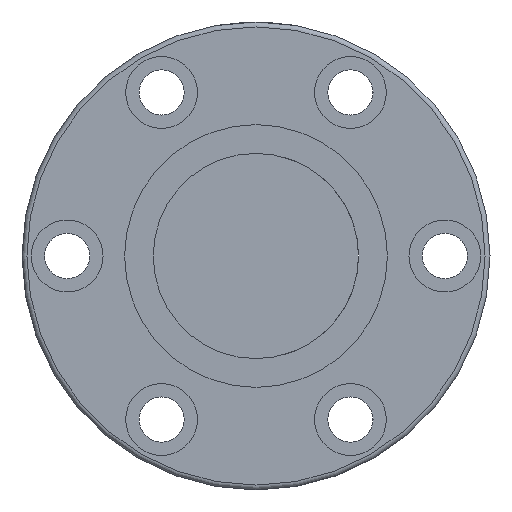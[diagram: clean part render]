
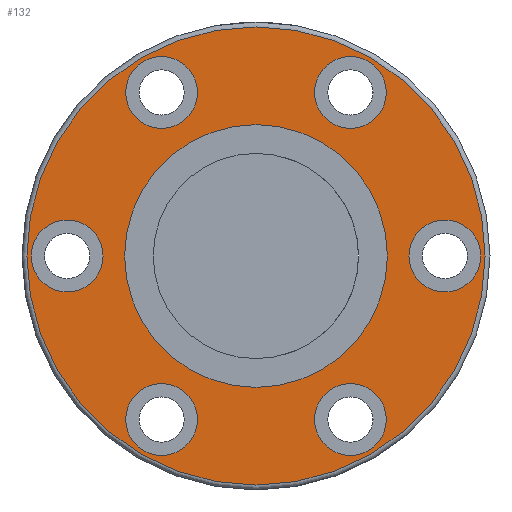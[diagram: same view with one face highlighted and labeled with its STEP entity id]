
A CAD part, front view. The second image highlights one B-rep face of the part: STEP entity #132.
In plain terms, the highlighted planar face has unit normal (0, -1, 0).
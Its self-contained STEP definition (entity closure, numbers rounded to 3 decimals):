
#112=PLANE('',#649);
#132=ADVANCED_FACE('',(#203,#204,#205,#206,#207,#208,#209,#210),#112,.F.);
#203=FACE_BOUND('',#298,.T.);
#204=FACE_BOUND('',#299,.T.);
#205=FACE_BOUND('',#300,.T.);
#206=FACE_BOUND('',#301,.T.);
#207=FACE_BOUND('',#302,.T.);
#208=FACE_BOUND('',#303,.T.);
#209=FACE_BOUND('',#304,.T.);
#210=FACE_BOUND('',#305,.T.);
#298=EDGE_LOOP('',(#396));
#299=EDGE_LOOP('',(#397));
#300=EDGE_LOOP('',(#398));
#301=EDGE_LOOP('',(#399));
#302=EDGE_LOOP('',(#400));
#303=EDGE_LOOP('',(#401));
#304=EDGE_LOOP('',(#402));
#305=EDGE_LOOP('',(#403));
#396=ORIENTED_EDGE('',*,*,#539,.T.);
#397=ORIENTED_EDGE('',*,*,#540,.T.);
#398=ORIENTED_EDGE('',*,*,#541,.T.);
#399=ORIENTED_EDGE('',*,*,#542,.T.);
#400=ORIENTED_EDGE('',*,*,#543,.T.);
#401=ORIENTED_EDGE('',*,*,#544,.T.);
#402=ORIENTED_EDGE('',*,*,#545,.T.);
#403=ORIENTED_EDGE('',*,*,#546,.F.);
#490=VERTEX_POINT('',#925);
#491=VERTEX_POINT('',#927);
#492=VERTEX_POINT('',#929);
#493=VERTEX_POINT('',#931);
#494=VERTEX_POINT('',#933);
#495=VERTEX_POINT('',#935);
#496=VERTEX_POINT('',#937);
#497=VERTEX_POINT('',#939);
#539=EDGE_CURVE('',#490,#490,#588,.T.);
#540=EDGE_CURVE('',#491,#491,#589,.T.);
#541=EDGE_CURVE('',#492,#492,#590,.T.);
#542=EDGE_CURVE('',#493,#493,#591,.T.);
#543=EDGE_CURVE('',#494,#494,#592,.T.);
#544=EDGE_CURVE('',#495,#495,#593,.T.);
#545=EDGE_CURVE('',#496,#496,#594,.T.);
#546=EDGE_CURVE('',#497,#497,#595,.T.);
#588=CIRCLE('',#641,8.75);
#589=CIRCLE('',#642,8.75);
#590=CIRCLE('',#643,8.75);
#591=CIRCLE('',#644,8.75);
#592=CIRCLE('',#645,8.75);
#593=CIRCLE('',#646,8.75);
#594=CIRCLE('',#647,55.8);
#595=CIRCLE('',#648,32.);
#641=AXIS2_PLACEMENT_3D('',#924,#743,#744);
#642=AXIS2_PLACEMENT_3D('',#926,#745,#746);
#643=AXIS2_PLACEMENT_3D('',#928,#747,#748);
#644=AXIS2_PLACEMENT_3D('',#930,#749,#750);
#645=AXIS2_PLACEMENT_3D('',#932,#751,#752);
#646=AXIS2_PLACEMENT_3D('',#934,#753,#754);
#647=AXIS2_PLACEMENT_3D('',#936,#755,#756);
#648=AXIS2_PLACEMENT_3D('',#938,#757,#758);
#649=AXIS2_PLACEMENT_3D('',#940,#759,#760);
#743=DIRECTION('',(0.,1.,0.));
#744=DIRECTION('',(0.,0.,1.));
#745=DIRECTION('',(0.,1.,0.));
#746=DIRECTION('',(0.,0.,1.));
#747=DIRECTION('',(0.,1.,0.));
#748=DIRECTION('',(0.,0.,1.));
#749=DIRECTION('',(0.,1.,0.));
#750=DIRECTION('',(0.,0.,1.));
#751=DIRECTION('',(0.,1.,0.));
#752=DIRECTION('',(0.,0.,1.));
#753=DIRECTION('',(0.,1.,0.));
#754=DIRECTION('',(0.,0.,1.));
#755=DIRECTION('',(0.,-1.,0.));
#756=DIRECTION('',(0.,0.,1.));
#757=DIRECTION('',(0.,-1.,0.));
#758=DIRECTION('',(1.,0.,0.));
#759=DIRECTION('',(0.,1.,0.));
#760=DIRECTION('',(0.,0.,1.));
#924=CARTESIAN_POINT('',(46.039,-43.961,0.));
#925=CARTESIAN_POINT('',(46.039,-43.961,8.75));
#926=CARTESIAN_POINT('',(-45.961,-43.961,0.));
#927=CARTESIAN_POINT('',(-45.961,-43.961,8.75));
#928=CARTESIAN_POINT('',(23.039,-43.961,-39.837));
#929=CARTESIAN_POINT('',(23.039,-43.961,-31.087));
#930=CARTESIAN_POINT('',(-22.961,-43.961,-39.837));
#931=CARTESIAN_POINT('',(-22.961,-43.961,-31.087));
#932=CARTESIAN_POINT('',(23.039,-43.961,39.837));
#933=CARTESIAN_POINT('',(23.039,-43.961,48.587));
#934=CARTESIAN_POINT('',(-22.961,-43.961,39.837));
#935=CARTESIAN_POINT('',(-22.961,-43.961,48.587));
#936=CARTESIAN_POINT('',(0.039,-43.961,0.));
#937=CARTESIAN_POINT('',(0.039,-43.961,55.8));
#938=CARTESIAN_POINT('',(0.039,-43.961,0.));
#939=CARTESIAN_POINT('',(32.039,-43.961,0.));
#940=CARTESIAN_POINT('',(0.039,-43.961,0.));
